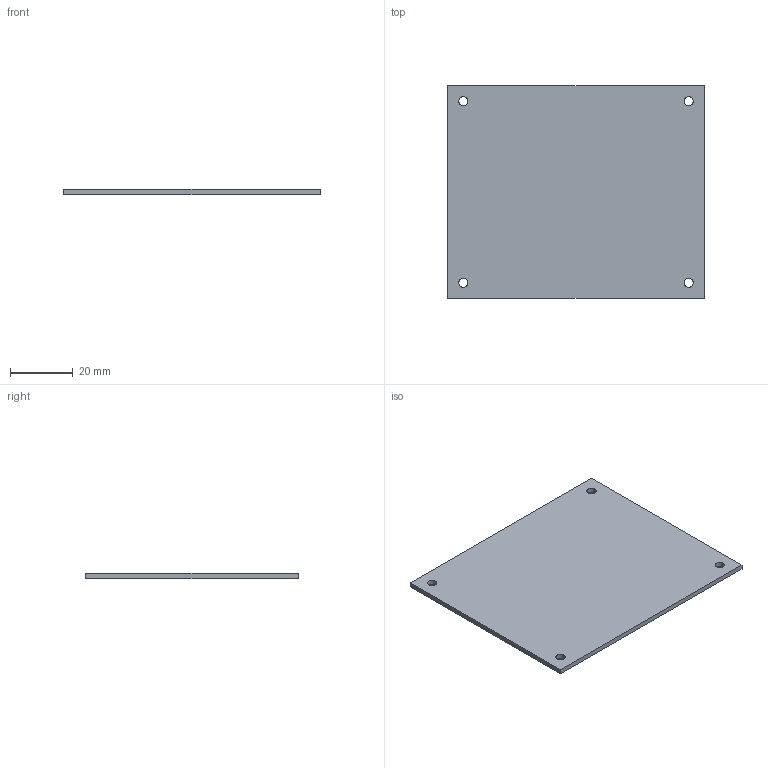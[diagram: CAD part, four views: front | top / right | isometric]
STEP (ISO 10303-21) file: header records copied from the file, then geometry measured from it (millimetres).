
FILE_DESCRIPTION(('Open CASCADE Model'),'2;1');
FILE_NAME('Open CASCADE Shape Model','2026-10-27T12:51:52',('Author'),( 'Open CASCADE'),'Open CASCADE STEP processor 7.8','Open CASCADE 7.8' ,'Unknown');
FILE_SCHEMA(('AUTOMOTIVE_DESIGN { 1 0 10303 214 1 1 1 1 }'));
Length unit declared in the file: millimetre
Products named in the file (1): Open CASCADE STEP translator 7.8 2
Bounding box: 82 x 68 x 1.6 mm (x, y, z)
Volume: 8879.3 mm3; surface area: 11637.5 mm2
Topology: 1 solids, 1 shells, 10 faces, 24 edges, 16 vertices
Faces by surface type: plane 6, cylinder 4
Full cylindrical faces by diameter (mm): 2.9 x4
Entity records: 658 total; most frequent: CARTESIAN_POINT 147, DIRECTION 94, LINE 56, VECTOR 56, ORIENTED_EDGE 48, PCURVE 48, DEFINITIONAL_REPRESENTATION 48, EDGE_CURVE 24
